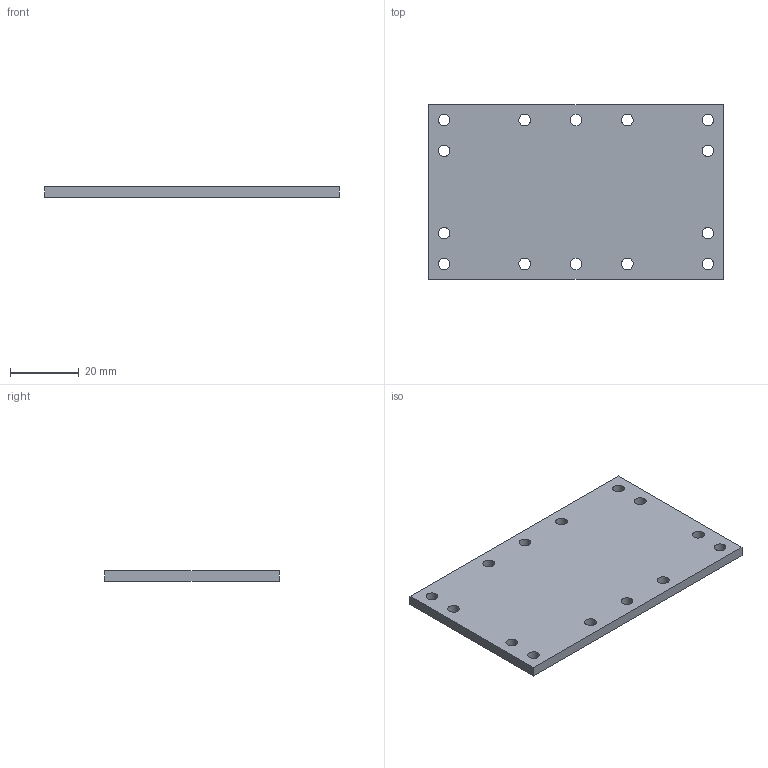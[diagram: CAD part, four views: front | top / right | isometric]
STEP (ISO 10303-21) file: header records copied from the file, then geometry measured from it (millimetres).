
FILE_DESCRIPTION(('Open CASCADE Model'),'2;1');
FILE_NAME('Open CASCADE Shape Model','2026-08-13T15:04:31',('Author'),( 'Open CASCADE'),'Open CASCADE STEP processor 7.9','build123d', 'Unknown');
FILE_SCHEMA(('AUTOMOTIVE_DESIGN { 1 0 10303 214 1 1 1 1 }'));
Length unit declared in the file: millimetre
Products named in the file (1): COMPOUND
Bounding box: 86 x 51 x 3 mm (x, y, z)
Volume: 12776.7 mm3; surface area: 9788.4 mm2
Topology: 1 solids, 1 shells, 20 faces, 54 edges, 36 vertices
Faces by surface type: cylinder 14, plane 6
Full cylindrical faces by diameter (mm): 3.4 x14
Entity records: 1414 total; most frequent: DIRECTION 232, CARTESIAN_POINT 219, ORIENTED_EDGE 108, PCURVE 108, DEFINITIONAL_REPRESENTATION 108, LINE 106, VECTOR 106, CIRCLE 56
